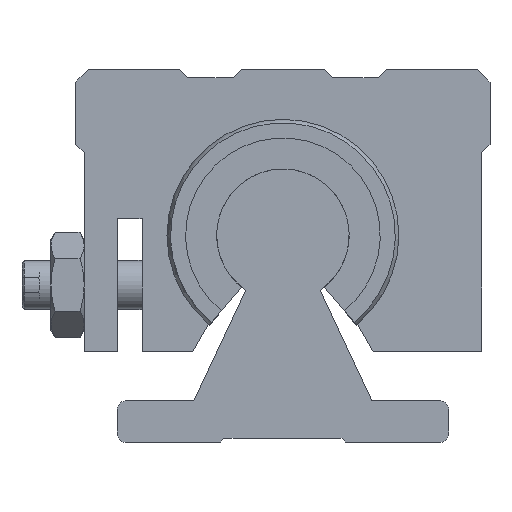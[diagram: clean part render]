
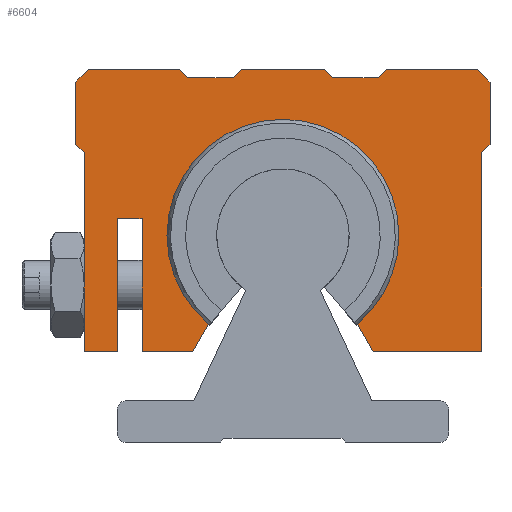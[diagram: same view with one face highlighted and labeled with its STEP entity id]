
A CAD part, left-side view. The second image highlights one B-rep face of the part: STEP entity #6604.
In plain terms, the highlighted planar face has unit normal (-1, 0, 0).
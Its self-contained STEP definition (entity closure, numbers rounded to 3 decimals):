
#5357=CARTESIAN_POINT('',(275.086,-9.0,14.276));
#5358=VERTEX_POINT('',#5357);
#5365=CARTESIAN_POINT('',(275.086,9.,14.276));
#5366=VERTEX_POINT('',#5365);
#5367=CARTESIAN_POINT('',(275.086,0.,25.0));
#5368=DIRECTION('',(-1.0,0.0,0.0));
#5369=DIRECTION('',(0.0,-1.0,0.0));
#5370=AXIS2_PLACEMENT_3D('',#5367,#5368,#5369);
#5371=CIRCLE('',#5370,14.);
#5372=EDGE_CURVE('',#5358,#5366,#5371,.T.);
#5464=CARTESIAN_POINT('',(275.086,-5.,45.0));
#5465=VERTEX_POINT('',#5464);
#5466=CARTESIAN_POINT('',(275.086,-6.,44.0));
#5467=VERTEX_POINT('',#5466);
#5468=CARTESIAN_POINT('',(275.086,-5.,45.0));
#5469=DIRECTION('',(0.0,-0.707,-0.707));
#5470=VECTOR('',#5469,1.414);
#5471=LINE('',#5468,#5470);
#5472=EDGE_CURVE('',#5465,#5467,#5471,.T.);
#5505=CARTESIAN_POINT('',(275.086,-11.5,44.0));
#5506=VERTEX_POINT('',#5505);
#5507=CARTESIAN_POINT('',(275.086,-6.,44.0));
#5508=DIRECTION('',(0.0,-1.0,0.0));
#5509=VECTOR('',#5508,5.5);
#5510=LINE('',#5507,#5509);
#5511=EDGE_CURVE('',#5467,#5506,#5510,.T.);
#5535=CARTESIAN_POINT('',(275.086,12.5,45.0));
#5536=VERTEX_POINT('',#5535);
#5537=CARTESIAN_POINT('',(275.086,11.5,44.0));
#5538=VERTEX_POINT('',#5537);
#5539=CARTESIAN_POINT('',(275.086,12.5,45.0));
#5540=DIRECTION('',(0.0,-0.707,-0.707));
#5541=VECTOR('',#5540,1.414);
#5542=LINE('',#5539,#5541);
#5543=EDGE_CURVE('',#5536,#5538,#5542,.T.);
#5576=CARTESIAN_POINT('',(275.086,6.,44.0));
#5577=VERTEX_POINT('',#5576);
#5578=CARTESIAN_POINT('',(275.086,11.5,44.0));
#5579=DIRECTION('',(0.0,-1.0,0.0));
#5580=VECTOR('',#5579,5.5);
#5581=LINE('',#5578,#5580);
#5582=EDGE_CURVE('',#5538,#5577,#5581,.T.);
#5606=CARTESIAN_POINT('',(275.086,5.,45.0));
#5607=VERTEX_POINT('',#5606);
#5608=CARTESIAN_POINT('',(275.086,6.,44.0));
#5609=DIRECTION('',(0.0,-0.707,0.707));
#5610=VECTOR('',#5609,1.414);
#5611=LINE('',#5608,#5610);
#5612=EDGE_CURVE('',#5577,#5607,#5611,.T.);
#5637=CARTESIAN_POINT('',(275.086,-12.5,45.0));
#5638=VERTEX_POINT('',#5637);
#5639=CARTESIAN_POINT('',(275.086,-11.5,44.0));
#5640=DIRECTION('',(0.0,-0.707,0.707));
#5641=VECTOR('',#5640,1.414);
#5642=LINE('',#5639,#5641);
#5643=EDGE_CURVE('',#5506,#5638,#5642,.T.);
#5668=CARTESIAN_POINT('',(275.086,24.,35.0));
#5669=VERTEX_POINT('',#5668);
#5670=CARTESIAN_POINT('',(275.086,25.0,36.0));
#5671=VERTEX_POINT('',#5670);
#5672=CARTESIAN_POINT('',(275.086,24.,35.0));
#5673=DIRECTION('',(0.0,0.707,0.707));
#5674=VECTOR('',#5673,1.414);
#5675=LINE('',#5672,#5674);
#5676=EDGE_CURVE('',#5669,#5671,#5675,.T.);
#5708=CARTESIAN_POINT('',(275.086,-25.0,36.0));
#5709=VERTEX_POINT('',#5708);
#5710=CARTESIAN_POINT('',(275.086,-24.,35.0));
#5711=VERTEX_POINT('',#5710);
#5712=CARTESIAN_POINT('',(275.086,-25.0,36.0));
#5713=DIRECTION('',(0.0,0.707,-0.707));
#5714=VECTOR('',#5713,1.414);
#5715=LINE('',#5712,#5714);
#5716=EDGE_CURVE('',#5709,#5711,#5715,.T.);
#5749=CARTESIAN_POINT('',(275.086,-24.,11.));
#5750=VERTEX_POINT('',#5749);
#5751=CARTESIAN_POINT('',(275.086,-24.,35.0));
#5752=DIRECTION('',(0.0,0.0,-1.0));
#5753=VECTOR('',#5752,24.);
#5754=LINE('',#5751,#5753);
#5755=EDGE_CURVE('',#5711,#5750,#5754,.T.);
#5789=CARTESIAN_POINT('',(275.086,25.0,43.5));
#5790=VERTEX_POINT('',#5789);
#5797=CARTESIAN_POINT('',(275.086,23.5,45.));
#5798=VERTEX_POINT('',#5797);
#5799=CARTESIAN_POINT('',(275.086,25.0,43.5));
#5800=DIRECTION('',(0.0,-0.707,0.707));
#5801=VECTOR('',#5800,2.121);
#5802=LINE('',#5799,#5801);
#5803=EDGE_CURVE('',#5790,#5798,#5802,.T.);
#5827=CARTESIAN_POINT('',(275.086,25.0,36.0));
#5828=DIRECTION('',(0.0,0.0,1.0));
#5829=VECTOR('',#5828,7.5);
#5830=LINE('',#5827,#5829);
#5831=EDGE_CURVE('',#5671,#5790,#5830,.T.);
#5964=CARTESIAN_POINT('',(275.086,-23.5,45.));
#5965=VERTEX_POINT('',#5964);
#5972=CARTESIAN_POINT('',(275.086,-25.0,43.5));
#5973=VERTEX_POINT('',#5972);
#5974=CARTESIAN_POINT('',(275.086,-23.5,45.));
#5975=DIRECTION('',(0.0,-0.707,-0.707));
#5976=VECTOR('',#5975,2.121);
#5977=LINE('',#5974,#5976);
#5978=EDGE_CURVE('',#5965,#5973,#5977,.T.);
#5997=CARTESIAN_POINT('',(275.086,-12.5,45.0));
#5998=DIRECTION('',(0.0,-1.0,0.0));
#5999=VECTOR('',#5998,11.);
#6000=LINE('',#5997,#5999);
#6001=EDGE_CURVE('',#5638,#5965,#6000,.T.);
#6335=CARTESIAN_POINT('',(275.086,24.,11.));
#6336=VERTEX_POINT('',#6335);
#6343=CARTESIAN_POINT('',(275.086,24.,11.));
#6344=DIRECTION('',(0.0,0.0,1.0));
#6345=VECTOR('',#6344,24.);
#6346=LINE('',#6343,#6345);
#6347=EDGE_CURVE('',#6336,#5669,#6346,.T.);
#6366=CARTESIAN_POINT('',(275.086,20.,11.0));
#6367=VERTEX_POINT('',#6366);
#6374=CARTESIAN_POINT('',(275.086,20.,11.0));
#6375=DIRECTION('',(0.0,1.0,0.0));
#6376=VECTOR('',#6375,4.);
#6377=LINE('',#6374,#6376);
#6378=EDGE_CURVE('',#6367,#6336,#6377,.T.);
#6390=CARTESIAN_POINT('',(275.086,20.0,27.0));
#6391=VERTEX_POINT('',#6390);
#6398=CARTESIAN_POINT('',(275.086,20.0,27.0));
#6399=DIRECTION('',(0.0,0.0,-1.0));
#6400=VECTOR('',#6399,16.0);
#6401=LINE('',#6398,#6400);
#6402=EDGE_CURVE('',#6391,#6367,#6401,.T.);
#6417=CARTESIAN_POINT('',(275.086,17.0,27.0));
#6418=VERTEX_POINT('',#6417);
#6425=CARTESIAN_POINT('',(275.086,17.0,27.0));
#6426=DIRECTION('',(0.0,1.0,0.0));
#6427=VECTOR('',#6426,3.0);
#6428=LINE('',#6425,#6427);
#6429=EDGE_CURVE('',#6418,#6391,#6428,.T.);
#6441=CARTESIAN_POINT('',(275.086,17.,11.0));
#6442=VERTEX_POINT('',#6441);
#6449=CARTESIAN_POINT('',(275.086,17.,11.0));
#6450=DIRECTION('',(0.0,0.0,1.0));
#6451=VECTOR('',#6450,16.0);
#6452=LINE('',#6449,#6451);
#6453=EDGE_CURVE('',#6442,#6418,#6452,.T.);
#6468=CARTESIAN_POINT('',(275.086,10.892,11.));
#6469=VERTEX_POINT('',#6468);
#6476=CARTESIAN_POINT('',(275.086,10.892,11.));
#6477=DIRECTION('',(0.0,1.0,0.0));
#6478=VECTOR('',#6477,6.108);
#6479=LINE('',#6476,#6478);
#6480=EDGE_CURVE('',#6469,#6442,#6479,.T.);
#6499=CARTESIAN_POINT('',(275.086,9.,14.276));
#6500=DIRECTION('',(0.0,0.5,-0.866));
#6501=VECTOR('',#6500,3.783);
#6502=LINE('',#6499,#6501);
#6503=EDGE_CURVE('',#5366,#6469,#6502,.T.);
#6515=CARTESIAN_POINT('',(275.086,-10.892,11.));
#6516=VERTEX_POINT('',#6515);
#6523=CARTESIAN_POINT('',(275.086,-10.892,11.));
#6524=DIRECTION('',(0.0,0.5,0.866));
#6525=VECTOR('',#6524,3.783);
#6526=LINE('',#6523,#6525);
#6527=EDGE_CURVE('',#6516,#5358,#6526,.T.);
#6546=CARTESIAN_POINT('',(275.086,-24.,11.));
#6547=DIRECTION('',(0.0,1.0,0.0));
#6548=VECTOR('',#6547,13.108);
#6549=LINE('',#6546,#6548);
#6550=EDGE_CURVE('',#5750,#6516,#6549,.T.);
#6556=CARTESIAN_POINT('',(275.086,2.347,27.737));
#6557=DIRECTION('',(1.0,0.0,0.0));
#6558=DIRECTION('',(0.0,0.0,-1.0));
#6559=AXIS2_PLACEMENT_3D('',#6556,#6557,#6558);
#6560=PLANE('',#6559);
#6561=ORIENTED_EDGE('',*,*,#5803,.F.);
#6562=ORIENTED_EDGE('',*,*,#5831,.F.);
#6563=ORIENTED_EDGE('',*,*,#5676,.F.);
#6564=ORIENTED_EDGE('',*,*,#6347,.F.);
#6565=ORIENTED_EDGE('',*,*,#6378,.F.);
#6566=ORIENTED_EDGE('',*,*,#6402,.F.);
#6567=ORIENTED_EDGE('',*,*,#6429,.F.);
#6568=ORIENTED_EDGE('',*,*,#6453,.F.);
#6569=ORIENTED_EDGE('',*,*,#6480,.F.);
#6570=ORIENTED_EDGE('',*,*,#6503,.F.);
#6571=ORIENTED_EDGE('',*,*,#5372,.F.);
#6572=ORIENTED_EDGE('',*,*,#6527,.F.);
#6573=ORIENTED_EDGE('',*,*,#6550,.F.);
#6574=ORIENTED_EDGE('',*,*,#5755,.F.);
#6575=ORIENTED_EDGE('',*,*,#5716,.F.);
#6576=CARTESIAN_POINT('',(275.086,-25.0,43.5));
#6577=DIRECTION('',(0.0,0.0,-1.0));
#6578=VECTOR('',#6577,7.5);
#6579=LINE('',#6576,#6578);
#6580=EDGE_CURVE('',#5973,#5709,#6579,.T.);
#6581=ORIENTED_EDGE('',*,*,#6580,.F.);
#6582=ORIENTED_EDGE('',*,*,#5978,.F.);
#6583=ORIENTED_EDGE('',*,*,#6001,.F.);
#6584=ORIENTED_EDGE('',*,*,#5643,.F.);
#6585=ORIENTED_EDGE('',*,*,#5511,.F.);
#6586=ORIENTED_EDGE('',*,*,#5472,.F.);
#6587=CARTESIAN_POINT('',(275.086,5.,45.0));
#6588=DIRECTION('',(0.0,-1.0,0.0));
#6589=VECTOR('',#6588,10.0);
#6590=LINE('',#6587,#6589);
#6591=EDGE_CURVE('',#5607,#5465,#6590,.T.);
#6592=ORIENTED_EDGE('',*,*,#6591,.F.);
#6593=ORIENTED_EDGE('',*,*,#5612,.F.);
#6594=ORIENTED_EDGE('',*,*,#5582,.F.);
#6595=ORIENTED_EDGE('',*,*,#5543,.F.);
#6596=CARTESIAN_POINT('',(275.086,23.5,45.));
#6597=DIRECTION('',(0.0,-1.0,0.0));
#6598=VECTOR('',#6597,11.);
#6599=LINE('',#6596,#6598);
#6600=EDGE_CURVE('',#5798,#5536,#6599,.T.);
#6601=ORIENTED_EDGE('',*,*,#6600,.F.);
#6602=EDGE_LOOP('',(#6561,#6562,#6563,#6564,#6565,#6566,#6567,#6568,#6569,#6570,#6571,#6572,#6573,#6574,#6575,#6581,#6582,#6583,#6584,#6585,#6586,#6592,#6593,#6594,#6595,#6601));
#6603=FACE_OUTER_BOUND('',#6602,.T.);
#6604=ADVANCED_FACE('',(#6603),#6560,.F.);
